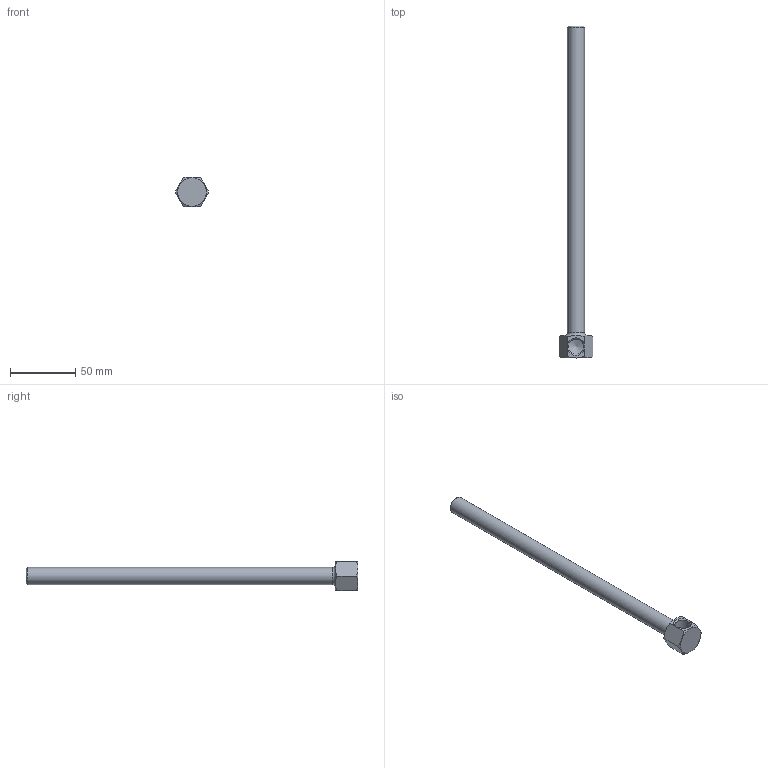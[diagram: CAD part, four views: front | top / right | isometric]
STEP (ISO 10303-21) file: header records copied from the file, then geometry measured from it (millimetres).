
FILE_DESCRIPTION(/* description */ (''),/* implementation_level */ '2;1');
FILE_NAME(/* name */ 'C:/Users/drich/Desktop/14B-10 v1.step',/* time_stamp */ '2019-12-29T15:18:58-06:00',/* author */ (''),/* organization */ (''),/* preprocessor_version */ 'ST-DEVELOPER v18',/* originating_system */ 'Autodesk Translation Framework v8.12.0.6',/* authorisation */ '');
FILE_SCHEMA (('AUTOMOTIVE_DESIGN { 1 0 10303 214 3 1 1 }'));
Length unit declared in the file: inch
Products named in the file (1): 14B-10
Bounding box: 25.66 x 254 x 22.23 mm (x, y, z)
Volume: 22961.1 mm3; surface area: 18768.8 mm2
Topology: 1 solids, 1 shells, 20 faces, 55 edges, 36 vertices
Faces by surface type: plane 10, cone 6, cylinder 3, torus 1
Full cylindrical faces by diameter (mm): 8.712 x1, 11.668 x1, 13.032 x1
Entity records: 710 total; most frequent: CARTESIAN_POINT 197, ORIENTED_EDGE 108, DIRECTION 93, EDGE_CURVE 54, AXIS2_PLACEMENT_3D 38, VERTEX_POINT 36, EDGE_LOOP 22, FACE_OUTER_BOUND 20
